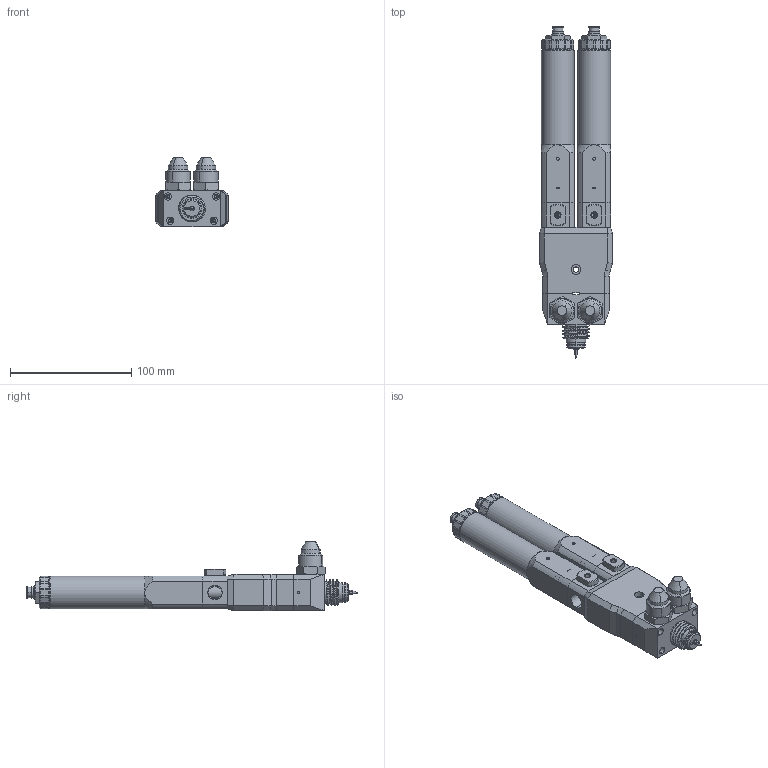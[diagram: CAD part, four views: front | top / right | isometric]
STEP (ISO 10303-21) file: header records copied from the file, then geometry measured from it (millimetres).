
FILE_DESCRIPTION (( 'STEP AP214' ), '1' );
FILE_NAME ('PDP-015-005CB.STEP', '2025-01-30T15:30:46', ( '' ), ( '' ), 'SwSTEP 2.0', 'SolidWorks 2024', '' );
FILE_SCHEMA (( 'AUTOMOTIVE_DESIGN' ));
Length unit declared in the file: millimetre
Products named in the file (1): PDP-015-005CB
Bounding box: 60 x 274 x 57.3 mm (x, y, z)
Volume: 341028.7 mm3; surface area: 88859 mm2
Topology: 13 solids, 13 shells, 1342 faces, 3270 edges, 2046 vertices
Faces by surface type: cylinder 524, plane 453, cone 340, bspline 17, torus 4, sphere 4
Full cylindrical faces by diameter (mm): 27 x2
Entity records: 49681 total; most frequent: CARTESIAN_POINT 18287, DIRECTION 6622, ORIENTED_EDGE 6456, EDGE_CURVE 3228, AXIS2_PLACEMENT_3D 2632, VERTEX_POINT 2046, EDGE_LOOP 1520, LINE 1358
